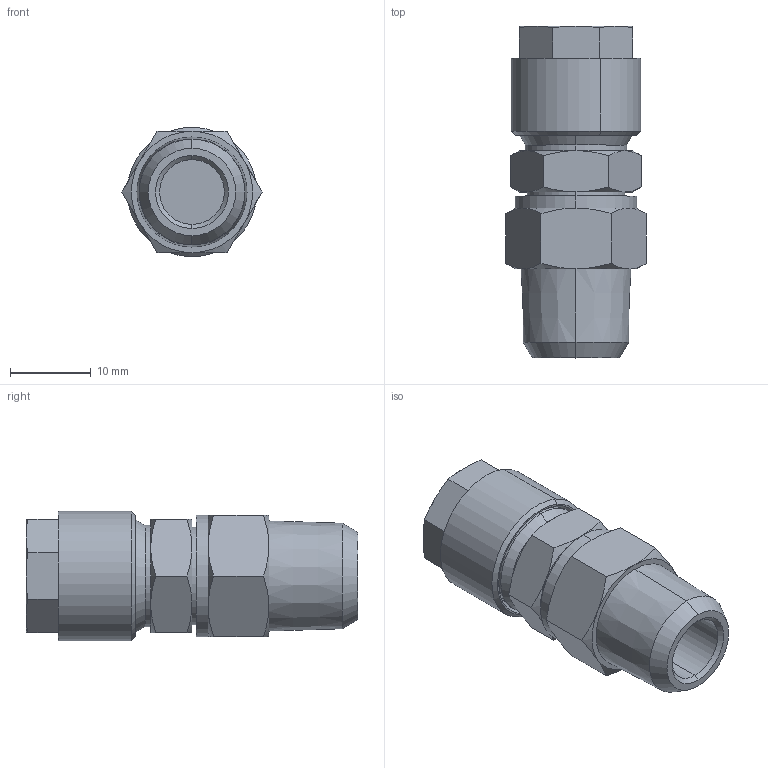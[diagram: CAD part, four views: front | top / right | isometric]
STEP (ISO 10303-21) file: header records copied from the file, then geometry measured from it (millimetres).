
FILE_DESCRIPTION (( 'STEP AP214' ), '1' );
FILE_NAME ('0101000005.step', '2012-09-28T13:17:28', ( '' ), ( '' ), 'SwSTEP 2.0', 'SolidWorks 2012', '' );
FILE_SCHEMA (( 'AUTOMOTIVE_DESIGN' ));
Length unit declared in the file: millimetre
Products named in the file (1): 0101000005
Bounding box: 17.32 x 41 x 15.98 mm (x, y, z)
Volume: 6533.1 mm3; surface area: 2680.3 mm2
Topology: 1 solids, 1 shells, 94 faces, 202 edges, 119 vertices
Faces by surface type: cone 45, plane 31, cylinder 14, torus 4
Entity records: 3432 total; most frequent: CARTESIAN_POINT 736, DIRECTION 411, ORIENTED_EDGE 404, EDGE_CURVE 202, AXIS2_PLACEMENT_3D 178, VERTEX_POINT 119, EDGE_LOOP 103, FACE_OUTER_BOUND 94
